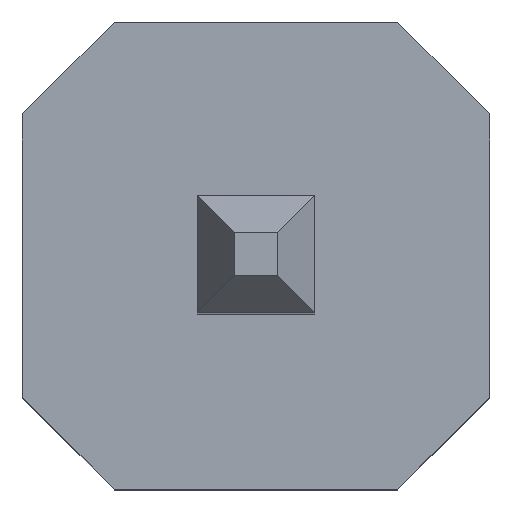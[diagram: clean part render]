
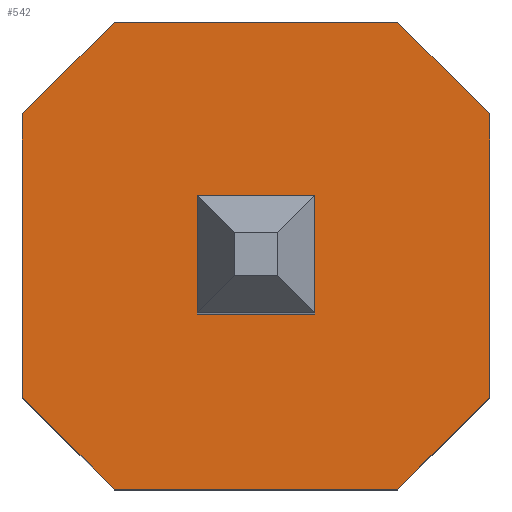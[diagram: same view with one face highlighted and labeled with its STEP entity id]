
A CAD part, top view. The second image highlights one B-rep face of the part: STEP entity #542.
In plain terms, the highlighted planar face has unit normal (0, 0, 1) as drawn and (0, 1, 0) by its records, which use the part's own axes.
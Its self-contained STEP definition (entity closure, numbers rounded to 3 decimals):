
#67=FACE_OUTER_BOUND('',#99,.T.);
#99=EDGE_LOOP('',(#450,#451,#452,#453,#454,#455,#456,#457));
#147=LINE('',#975,#211);
#153=LINE('',#988,#217);
#155=LINE('',#993,#219);
#159=LINE('',#1002,#223);
#163=LINE('',#1009,#227);
#164=LINE('',#1010,#228);
#165=LINE('',#1011,#229);
#166=LINE('',#1012,#230);
#211=VECTOR('',#798,1000.);
#217=VECTOR('',#806,1000.);
#219=VECTOR('',#810,1000.);
#223=VECTOR('',#816,1000.);
#227=VECTOR('',#822,1000.);
#228=VECTOR('',#823,1000.);
#229=VECTOR('',#824,1000.);
#230=VECTOR('',#825,1000.);
#263=VERTEX_POINT('',#973);
#264=VERTEX_POINT('',#974);
#269=VERTEX_POINT('',#985);
#270=VERTEX_POINT('',#987);
#271=VERTEX_POINT('',#991);
#272=VERTEX_POINT('',#992);
#275=VERTEX_POINT('',#1000);
#276=VERTEX_POINT('',#1001);
#324=EDGE_CURVE('',#263,#264,#147,.T.);
#330=EDGE_CURVE('',#270,#269,#153,.T.);
#332=EDGE_CURVE('',#271,#272,#155,.T.);
#336=EDGE_CURVE('',#275,#276,#159,.T.);
#340=EDGE_CURVE('',#269,#271,#163,.T.);
#341=EDGE_CURVE('',#272,#275,#164,.T.);
#342=EDGE_CURVE('',#276,#263,#165,.T.);
#343=EDGE_CURVE('',#264,#270,#166,.T.);
#450=ORIENTED_EDGE('',*,*,#330,.T.);
#451=ORIENTED_EDGE('',*,*,#340,.T.);
#452=ORIENTED_EDGE('',*,*,#332,.T.);
#453=ORIENTED_EDGE('',*,*,#341,.T.);
#454=ORIENTED_EDGE('',*,*,#336,.T.);
#455=ORIENTED_EDGE('',*,*,#342,.T.);
#456=ORIENTED_EDGE('',*,*,#324,.T.);
#457=ORIENTED_EDGE('',*,*,#343,.T.);
#510=PLANE('',#688);
#542=ADVANCED_FACE('',(#67),#510,.T.);
#688=AXIS2_PLACEMENT_3D('',#1008,#820,#821);
#798=DIRECTION('',(0.,0.,-1.));
#806=DIRECTION('',(-1.,0.,0.));
#810=DIRECTION('',(0.,0.,1.));
#816=DIRECTION('',(1.,0.,0.));
#820=DIRECTION('center_axis',(0.,1.,0.));
#821=DIRECTION('ref_axis',(0.,0.,1.));
#822=DIRECTION('',(-0.707,0.,0.707));
#823=DIRECTION('',(0.707,0.,0.707));
#824=DIRECTION('',(0.707,0.,-0.707));
#825=DIRECTION('',(-0.707,0.,-0.707));
#973=CARTESIAN_POINT('',(1.27,2.4,0.77));
#974=CARTESIAN_POINT('',(1.27,2.4,-0.77));
#975=CARTESIAN_POINT('',(1.27,2.4,-1.27));
#985=CARTESIAN_POINT('',(-0.77,2.4,-1.27));
#987=CARTESIAN_POINT('',(0.77,2.4,-1.27));
#988=CARTESIAN_POINT('',(-1.27,2.4,-1.27));
#991=CARTESIAN_POINT('',(-1.27,2.4,-0.77));
#992=CARTESIAN_POINT('',(-1.27,2.4,0.77));
#993=CARTESIAN_POINT('',(-1.27,2.4,-1.27));
#1000=CARTESIAN_POINT('',(-0.77,2.4,1.27));
#1001=CARTESIAN_POINT('',(0.77,2.4,1.27));
#1002=CARTESIAN_POINT('',(-1.27,2.4,1.27));
#1008=CARTESIAN_POINT('Origin',(0.,2.4,0.));
#1009=CARTESIAN_POINT('',(-1.02,2.4,-1.02));
#1010=CARTESIAN_POINT('',(-1.02,2.4,1.02));
#1011=CARTESIAN_POINT('',(1.02,2.4,1.02));
#1012=CARTESIAN_POINT('',(1.02,2.4,-1.02));
